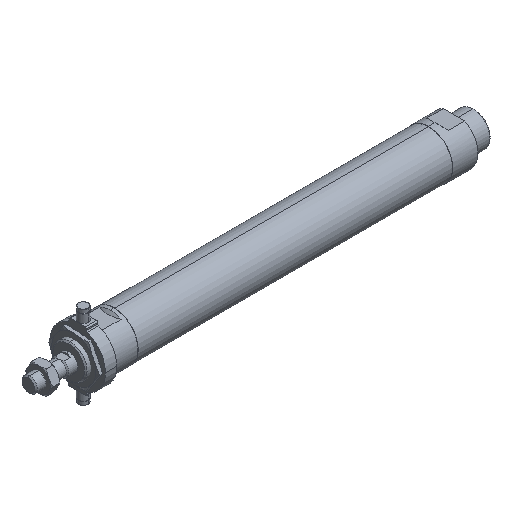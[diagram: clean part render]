
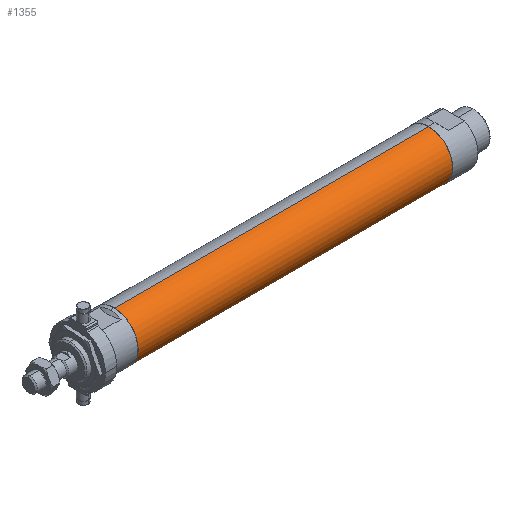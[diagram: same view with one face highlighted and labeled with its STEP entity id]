
A CAD part, isometric view. The second image highlights one B-rep face of the part: STEP entity #1355.
In plain terms, the highlighted cylindrical face has radius 18.8 mm (diameter 37.6 mm), a partial arc.
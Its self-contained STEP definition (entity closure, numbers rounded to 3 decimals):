
#342 = CARTESIAN_POINT ( 'NONE',  ( 68., 0., -18.8 ) ) ;
#679 = EDGE_CURVE ( 'NONE', #3194, #2721, #4083, .T. ) ;
#732 = DIRECTION ( 'NONE',  ( 0., 0., 1. ) ) ;
#758 = VERTEX_POINT ( 'NONE', #3819 ) ;
#761 = ORIENTED_EDGE ( 'NONE', *, *, #679, .T. ) ;
#855 = DIRECTION ( 'NONE',  ( -1., 0., 0. ) ) ;
#987 = DIRECTION ( 'NONE',  ( -1., 0., 0. ) ) ;
#998 = CARTESIAN_POINT ( 'NONE',  ( 317., 0., -18.8 ) ) ;
#1054 = CARTESIAN_POINT ( 'NONE',  ( -1.784, 0., 18.8 ) ) ;
#1144 = EDGE_CURVE ( 'NONE', #2721, #758, #3336, .T. ) ;
#1308 = LINE ( 'NONE', #1898, #1853 ) ;
#1355 = ADVANCED_FACE ( 'NONE', ( #1883 ), #1380, .T. ) ;
#1380 = CYLINDRICAL_SURFACE ( 'NONE', #1847, 18.8 ) ;
#1847 = AXIS2_PLACEMENT_3D ( 'NONE', #4018, #2036, #2042 ) ;
#1853 = VECTOR ( 'NONE', #987, 1000. ) ;
#1883 = FACE_OUTER_BOUND ( 'NONE', #3190, .T. ) ;
#1898 = CARTESIAN_POINT ( 'NONE',  ( -1.784, 0., -18.8 ) ) ;
#1978 = VERTEX_POINT ( 'NONE', #342 ) ;
#2036 = DIRECTION ( 'NONE',  ( -1., 0., 0. ) ) ;
#2042 = DIRECTION ( 'NONE',  ( 0., 0., 1. ) ) ;
#2068 = EDGE_CURVE ( 'NONE', #3194, #1978, #1308, .T. ) ;
#2273 = CARTESIAN_POINT ( 'NONE',  ( 317., 0., 0. ) ) ;
#2326 = ORIENTED_EDGE ( 'NONE', *, *, #3121, .F. ) ;
#2721 = VERTEX_POINT ( 'NONE', #4227 ) ;
#3103 = AXIS2_PLACEMENT_3D ( 'NONE', #3595, #4413, #732 ) ;
#3121 = EDGE_CURVE ( 'NONE', #1978, #758, #3251, .T. ) ;
#3190 = EDGE_LOOP ( 'NONE', ( #4535, #761, #4592, #2326 ) ) ;
#3194 = VERTEX_POINT ( 'NONE', #998 ) ;
#3251 = CIRCLE ( 'NONE', #3103, 18.8 ) ;
#3336 = LINE ( 'NONE', #1054, #4371 ) ;
#3495 = DIRECTION ( 'NONE',  ( 0., 0., 1. ) ) ;
#3595 = CARTESIAN_POINT ( 'NONE',  ( 68., 0., 0. ) ) ;
#3819 = CARTESIAN_POINT ( 'NONE',  ( 68., 0., 18.8 ) ) ;
#4018 = CARTESIAN_POINT ( 'NONE',  ( -1.784, 0., 0. ) ) ;
#4083 = CIRCLE ( 'NONE', #4360, 18.8 ) ;
#4227 = CARTESIAN_POINT ( 'NONE',  ( 317., 0., 18.8 ) ) ;
#4310 = DIRECTION ( 'NONE',  ( -1., 0., 0. ) ) ;
#4360 = AXIS2_PLACEMENT_3D ( 'NONE', #2273, #855, #3495 ) ;
#4371 = VECTOR ( 'NONE', #4310, 1000. ) ;
#4413 = DIRECTION ( 'NONE',  ( -1., 0., 0. ) ) ;
#4535 = ORIENTED_EDGE ( 'NONE', *, *, #2068, .F. ) ;
#4592 = ORIENTED_EDGE ( 'NONE', *, *, #1144, .T. ) ;
